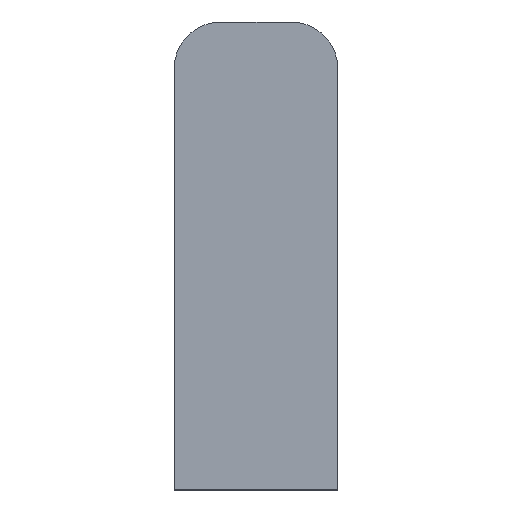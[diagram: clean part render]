
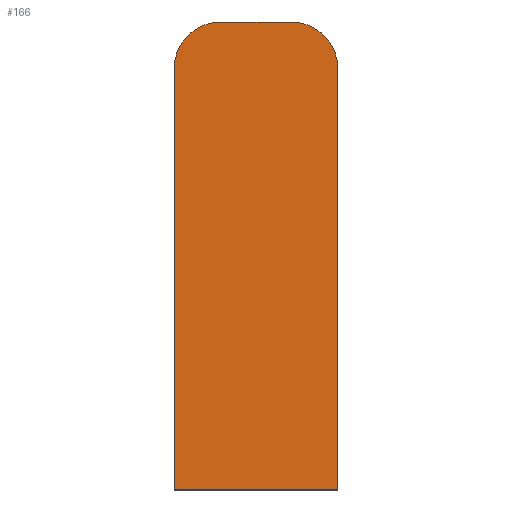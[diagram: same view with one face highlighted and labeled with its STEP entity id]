
A CAD part, front view. The second image highlights one B-rep face of the part: STEP entity #166.
In plain terms, the highlighted planar face has unit normal (0, -1, 0).
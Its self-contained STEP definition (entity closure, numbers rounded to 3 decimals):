
#1 = CARTESIAN_POINT ( 'NONE',  ( 2.25, 0., 13.5 ) ) ;
#7 = DIRECTION ( 'NONE',  ( 0., 0., 1. ) ) ;
#8 = CARTESIAN_POINT ( 'NONE',  ( 5.25, 0., -16.5 ) ) ;
#9 = DIRECTION ( 'NONE',  ( 1., 0., 0. ) ) ;
#13 = CARTESIAN_POINT ( 'NONE',  ( -2.25, 0., 10.5 ) ) ;
#15 = DIRECTION ( 'NONE',  ( 0., -1., 0. ) ) ;
#16 = DIRECTION ( 'NONE',  ( -1., 0., 0. ) ) ;
#17 = CARTESIAN_POINT ( 'NONE',  ( -5.25, 0., -16.5 ) ) ;
#18 = DIRECTION ( 'NONE',  ( 0., 0., -1. ) ) ;
#29 = CARTESIAN_POINT ( 'NONE',  ( 2.25, 0., 10.5 ) ) ;
#30 = DIRECTION ( 'NONE',  ( 0., -1., 0. ) ) ;
#31 = DIRECTION ( 'NONE',  ( -1., 0., 0. ) ) ;
#57 = PLANE ( 'NONE',  #140 ) ;
#60 = CARTESIAN_POINT ( 'NONE',  ( 0., 0., -1.5 ) ) ;
#64 = DIRECTION ( 'NONE',  ( 0., 1., 0. ) ) ;
#65 = DIRECTION ( 'NONE',  ( -1., 0., 0. ) ) ;
#88 = CARTESIAN_POINT ( 'NONE',  ( 5.25, 0., -16.5 ) ) ;
#95 = DIRECTION ( 'NONE',  ( -1., 0., 0. ) ) ;
#99 = CARTESIAN_POINT ( 'NONE',  ( -5.25, 0., 10.5 ) ) ;
#100 = CARTESIAN_POINT ( 'NONE',  ( 5.25, 0., -16.5 ) ) ;
#101 = CARTESIAN_POINT ( 'NONE',  ( -2.25, 0., 13.5 ) ) ;
#102 = CARTESIAN_POINT ( 'NONE',  ( 5.25, 0., 10.5 ) ) ;
#105 = VERTEX_POINT ( 'NONE', #118 ) ;
#107 = VERTEX_POINT ( 'NONE', #100 ) ;
#109 = VERTEX_POINT ( 'NONE', #119 ) ;
#110 = VERTEX_POINT ( 'NONE', #102 ) ;
#112 = VERTEX_POINT ( 'NONE', #101 ) ;
#113 = VERTEX_POINT ( 'NONE', #99 ) ;
#118 = CARTESIAN_POINT ( 'NONE',  ( -5.25, 0., -16.5 ) ) ;
#119 = CARTESIAN_POINT ( 'NONE',  ( 2.25, 0., 13.5 ) ) ;
#124 = EDGE_CURVE ( 'NONE', #109, #112, #233, .T. ) ;
#126 = EDGE_CURVE ( 'NONE', #107, #110, #254, .T. ) ;
#129 = EDGE_CURVE ( 'NONE', #105, #107, #244, .T. ) ;
#132 = AXIS2_PLACEMENT_3D ( 'NONE', #29, #30, #31 ) ;
#133 = AXIS2_PLACEMENT_3D ( 'NONE', #13, #15, #16 ) ;
#140 = AXIS2_PLACEMENT_3D ( 'NONE', #60, #64, #65 ) ;
#143 = EDGE_CURVE ( 'NONE', #112, #113, #207, .T. ) ;
#145 = EDGE_CURVE ( 'NONE', #113, #105, #243, .T. ) ;
#153 = EDGE_CURVE ( 'NONE', #110, #109, #230, .T. ) ;
#166 = ADVANCED_FACE ( 'NONE', ( #263 ), #57, .F. ) ;
#184 = ORIENTED_EDGE ( 'NONE', *, *, #153, .T. ) ;
#195 = ORIENTED_EDGE ( 'NONE', *, *, #129, .T. ) ;
#196 = ORIENTED_EDGE ( 'NONE', *, *, #145, .T. ) ;
#197 = ORIENTED_EDGE ( 'NONE', *, *, #143, .T. ) ;
#202 = ORIENTED_EDGE ( 'NONE', *, *, #126, .T. ) ;
#207 = CIRCLE ( 'NONE', #133, 3. ) ;
#208 = ORIENTED_EDGE ( 'NONE', *, *, #124, .T. ) ;
#230 = CIRCLE ( 'NONE', #132, 3. ) ;
#232 = EDGE_LOOP ( 'NONE', ( #202, #184, #208, #197, #196, #195 ) ) ;
#233 = LINE ( 'NONE', #1, #234 ) ;
#234 = VECTOR ( 'NONE', #95, 1000. ) ;
#239 = VECTOR ( 'NONE', #18, 1000. ) ;
#240 = VECTOR ( 'NONE', #7, 1000. ) ;
#243 = LINE ( 'NONE', #17, #239 ) ;
#244 = LINE ( 'NONE', #8, #245 ) ;
#245 = VECTOR ( 'NONE', #9, 1000. ) ;
#254 = LINE ( 'NONE', #88, #240 ) ;
#263 = FACE_OUTER_BOUND ( 'NONE', #232, .T. ) ;
